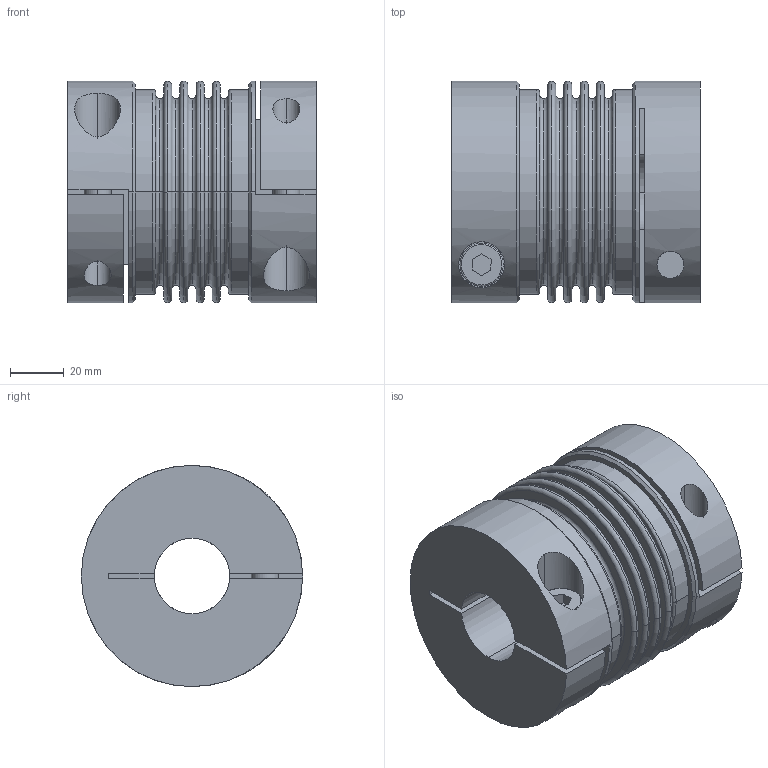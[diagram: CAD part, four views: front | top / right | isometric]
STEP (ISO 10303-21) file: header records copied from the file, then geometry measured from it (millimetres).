
FILE_DESCRIPTION(('no description'),'unknown implementation level');
FILE_NAME('BKL_150_28_28_1.stp',' ',('R+W Antriebselemente GmbH'),('CADClick - KiM GmbH - www.kimweb.de'),'unknown preprocess','ACIS','unknown authorization');
FILE_SCHEMA(('automotive_design'));
Length unit declared in the file: millimetre
Products named in the file (1): Bauteil1
Bounding box: 92 x 82 x 82 mm (x, y, z)
Volume: 304787.7 mm3; surface area: 75896.9 mm2
Topology: 1 solids, 1 shells, 132 faces, 300 edges, 190 vertices
Faces by surface type: plane 50, torus 44, cylinder 34, cone 4
Entity records: 8125 total; most frequent: CARTESIAN_POINT 962, PRESENTATION_STYLE_ASSIGNMENT 747, COLOUR_RGB 747, DIRECTION 738, STYLED_ITEM 623, ORIENTED_EDGE 600, CURVE_STYLE 424, DRAUGHTING_PRE_DEFINED_CURVE_FONT 424
